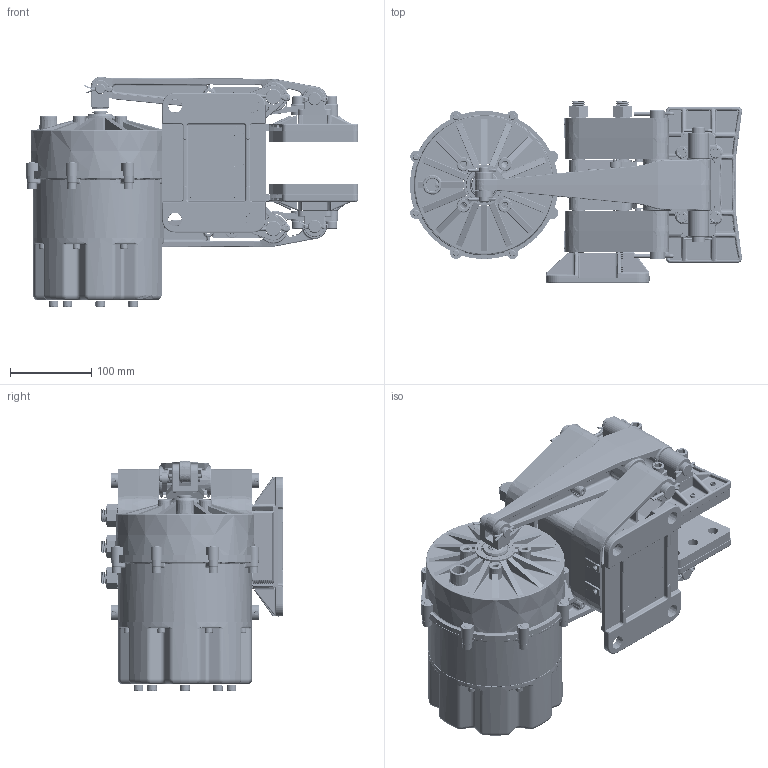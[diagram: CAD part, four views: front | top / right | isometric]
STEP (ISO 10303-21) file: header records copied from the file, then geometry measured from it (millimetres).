
FILE_DESCRIPTION (( 'STEP AP214' ), '1' );
FILE_NAME ('5023-SA-LH.STEP', '2016-06-02T17:26:34', ( 'User' ), ( 'Microsoft' ), 'SwSTEP 2.0', 'SolidWorks 2015', '' );
FILE_SCHEMA (( 'AUTOMOTIVE_DESIGN' ));
Length unit declared in the file: inch
Products named in the file (1): 5023-SA-LH
Bounding box: 407.61 x 224.03 x 281.96 mm (x, y, z)
Surface area: 849465.3 mm2 (no closed solid volume)
Topology: 0 solids, 184 shells, 4171 faces, 12869 edges, 8437 vertices
Faces by surface type: cylinder 1454, plane 1020, cone 633, bspline 561, torus 482, sphere 21
Entity records: 237749 total; most frequent: CARTESIAN_POINT 79382, DIRECTION 21221, ORIENTED_EDGE 20818, EDGE_CURVE 12718, AXIS2_PLACEMENT_3D 8475, VERTEX_POINT 8437, CIRCLE 4864, EDGE_LOOP 4545
